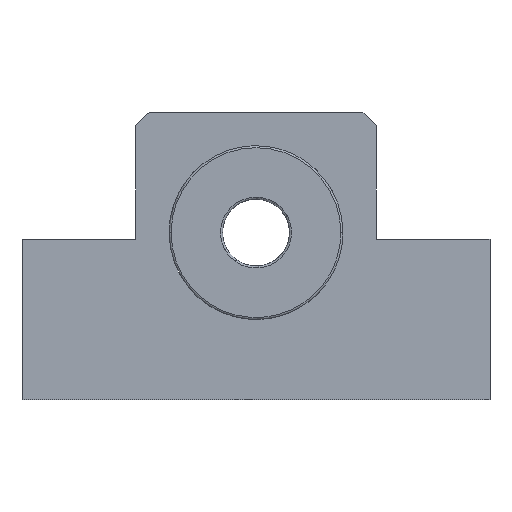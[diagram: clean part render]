
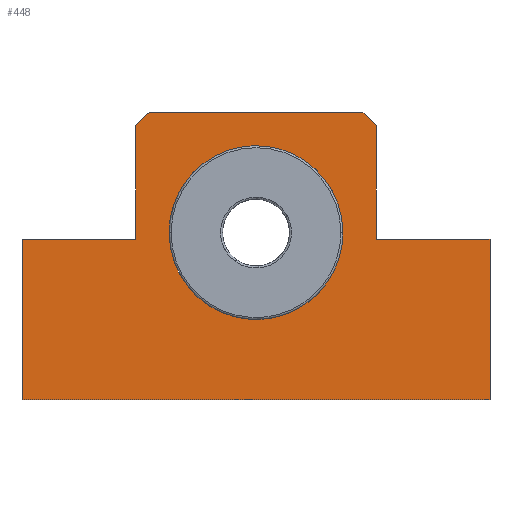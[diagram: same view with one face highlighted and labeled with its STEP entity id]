
A CAD part, left-side view. The second image highlights one B-rep face of the part: STEP entity #448.
In plain terms, the highlighted planar face has unit normal (-1, 0, 0).
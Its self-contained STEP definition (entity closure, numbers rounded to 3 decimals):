
#156=CARTESIAN_POINT('Vertex',(-10.,-35.,-25.)) ;
#161=CARTESIAN_POINT('Line Origine',(-10.,0.,-25.)) ;
#165=CARTESIAN_POINT('Vertex',(-10.,35.,-25.)) ;
#260=CARTESIAN_POINT('Vertex',(-10.,35.,-1.)) ;
#265=CARTESIAN_POINT('Line Origine',(-10.,26.5,-1.)) ;
#269=CARTESIAN_POINT('Vertex',(-10.,18.,-1.)) ;
#304=CARTESIAN_POINT('Vertex',(-10.,-35.,-1.)) ;
#309=CARTESIAN_POINT('Line Origine',(-10.,-35.,-13.)) ;
#326=CARTESIAN_POINT('Axis2P3D Location',(-10.,0.,0.)) ;
#331=CARTESIAN_POINT('Line Origine',(-10.,-17.,17.)) ;
#335=CARTESIAN_POINT('Vertex',(-10.,-16.,18.)) ;
#337=CARTESIAN_POINT('Vertex',(-10.,-18.,16.)) ;
#340=CARTESIAN_POINT('Line Origine',(-10.,0.,18.)) ;
#344=CARTESIAN_POINT('Vertex',(-10.,16.,18.)) ;
#347=CARTESIAN_POINT('Line Origine',(-10.,17.,17.)) ;
#351=CARTESIAN_POINT('Vertex',(-10.,18.,16.)) ;
#354=CARTESIAN_POINT('Line Origine',(-10.,18.,7.5)) ;
#359=CARTESIAN_POINT('Line Origine',(-10.,35.,-13.)) ;
#364=CARTESIAN_POINT('Line Origine',(-10.,-26.5,-1.)) ;
#368=CARTESIAN_POINT('Vertex',(-10.,-18.,-1.)) ;
#371=CARTESIAN_POINT('Line Origine',(-10.,-18.,7.5)) ;
#389=CARTESIAN_POINT('Control Point',(-10.,-11.409,6.233)) ;
#390=CARTESIAN_POINT('Control Point',(-10.,-10.816,7.318)) ;
#391=CARTESIAN_POINT('Control Point',(-10.,-10.094,8.332)) ;
#392=CARTESIAN_POINT('Control Point',(-10.,-9.254,9.256)) ;
#393=CARTESIAN_POINT('Control Point',(-10.,-7.372,10.886)) ;
#394=CARTESIAN_POINT('Control Point',(-10.,-5.159,12.029)) ;
#395=CARTESIAN_POINT('Control Point',(-10.,-3.99,12.466)) ;
#396=CARTESIAN_POINT('Control Point',(-10.,-1.57,13.053)) ;
#397=CARTESIAN_POINT('Control Point',(-10.,0.921,13.056)) ;
#398=CARTESIAN_POINT('Control Point',(-10.,2.16,12.909)) ;
#399=CARTESIAN_POINT('Control Point',(-10.,4.581,12.323)) ;
#400=CARTESIAN_POINT('Control Point',(-10.,6.796,11.186)) ;
#401=CARTESIAN_POINT('Control Point',(-10.,7.831,10.488)) ;
#402=CARTESIAN_POINT('Control Point',(-10.,9.714,8.859)) ;
#403=CARTESIAN_POINT('Control Point',(-10.,11.163,6.833)) ;
#404=CARTESIAN_POINT('Control Point',(-10.,11.764,5.739)) ;
#405=CARTESIAN_POINT('Control Point',(-10.,12.692,3.428)) ;
#406=CARTESIAN_POINT('Control Point',(-10.,13.053,0.964)) ;
#407=CARTESIAN_POINT('Control Point',(-10.,13.086,-0.284)) ;
#408=CARTESIAN_POINT('Control Point',(-10.,12.899,-2.275)) ;
#409=CARTESIAN_POINT('Control Point',(-10.,12.342,-4.186)) ;
#410=CARTESIAN_POINT('Control Point',(-10.,12.08,-4.891)) ;
#411=CARTESIAN_POINT('Control Point',(-10.,11.768,-5.575)) ;
#412=CARTESIAN_POINT('Control Point',(-10.,11.409,-6.233)) ;
#413=CARTESIAN_POINT('Vertex',(-10.,11.409,-6.233)) ;
#415=CARTESIAN_POINT('Vertex',(-10.,-11.409,6.233)) ;
#419=CARTESIAN_POINT('Control Point',(-10.,11.409,-6.233)) ;
#420=CARTESIAN_POINT('Control Point',(-10.,10.816,-7.318)) ;
#421=CARTESIAN_POINT('Control Point',(-10.,10.094,-8.332)) ;
#422=CARTESIAN_POINT('Control Point',(-10.,9.254,-9.256)) ;
#423=CARTESIAN_POINT('Control Point',(-10.,7.372,-10.886)) ;
#424=CARTESIAN_POINT('Control Point',(-10.,5.159,-12.029)) ;
#425=CARTESIAN_POINT('Control Point',(-10.,3.99,-12.466)) ;
#426=CARTESIAN_POINT('Control Point',(-10.,1.57,-13.053)) ;
#427=CARTESIAN_POINT('Control Point',(-10.,-0.921,-13.056)) ;
#428=CARTESIAN_POINT('Control Point',(-10.,-2.16,-12.909)) ;
#429=CARTESIAN_POINT('Control Point',(-10.,-4.581,-12.323)) ;
#430=CARTESIAN_POINT('Control Point',(-10.,-6.796,-11.186)) ;
#431=CARTESIAN_POINT('Control Point',(-10.,-7.831,-10.488)) ;
#432=CARTESIAN_POINT('Control Point',(-10.,-9.714,-8.859)) ;
#433=CARTESIAN_POINT('Control Point',(-10.,-11.163,-6.833)) ;
#434=CARTESIAN_POINT('Control Point',(-10.,-11.764,-5.739)) ;
#435=CARTESIAN_POINT('Control Point',(-10.,-12.692,-3.428)) ;
#436=CARTESIAN_POINT('Control Point',(-10.,-13.053,-0.964)) ;
#437=CARTESIAN_POINT('Control Point',(-10.,-13.086,0.284)) ;
#438=CARTESIAN_POINT('Control Point',(-10.,-12.899,2.275)) ;
#439=CARTESIAN_POINT('Control Point',(-10.,-12.342,4.186)) ;
#440=CARTESIAN_POINT('Control Point',(-10.,-12.08,4.891)) ;
#441=CARTESIAN_POINT('Control Point',(-10.,-11.768,5.575)) ;
#442=CARTESIAN_POINT('Control Point',(-10.,-11.409,6.233)) ;
#162=DIRECTION('Vector Direction',(0.,-1.,0.)) ;
#266=DIRECTION('Vector Direction',(0.,1.,0.)) ;
#310=DIRECTION('Vector Direction',(0.,0.,1.)) ;
#327=DIRECTION('Axis2P3D Direction',(1.,0.,0.)) ;
#328=DIRECTION('Axis2P3D XDirection',(0.,1.,0.)) ;
#332=DIRECTION('Vector Direction',(0.,-0.707,-0.707)) ;
#341=DIRECTION('Vector Direction',(0.,1.,0.)) ;
#348=DIRECTION('Vector Direction',(0.,0.707,-0.707)) ;
#355=DIRECTION('Vector Direction',(0.,0.,-1.)) ;
#360=DIRECTION('Vector Direction',(0.,0.,-1.)) ;
#365=DIRECTION('Vector Direction',(0.,1.,0.)) ;
#372=DIRECTION('Vector Direction',(0.,0.,1.)) ;
#329=AXIS2_PLACEMENT_3D('Plane Axis2P3D',#326,#327,#328) ;
#377=ORIENTED_EDGE('',*,*,#339,.F.) ;
#378=ORIENTED_EDGE('',*,*,#346,.F.) ;
#379=ORIENTED_EDGE('',*,*,#353,.F.) ;
#380=ORIENTED_EDGE('',*,*,#358,.F.) ;
#381=ORIENTED_EDGE('',*,*,#271,.F.) ;
#382=ORIENTED_EDGE('',*,*,#363,.F.) ;
#383=ORIENTED_EDGE('',*,*,#167,.F.) ;
#384=ORIENTED_EDGE('',*,*,#313,.F.) ;
#385=ORIENTED_EDGE('',*,*,#370,.F.) ;
#386=ORIENTED_EDGE('',*,*,#375,.F.) ;
#445=ORIENTED_EDGE('',*,*,#417,.T.) ;
#446=ORIENTED_EDGE('',*,*,#443,.T.) ;
#447=FACE_BOUND('',#444,.T.) ;
#163=VECTOR('Line Direction',#162,1.) ;
#267=VECTOR('Line Direction',#266,1.) ;
#311=VECTOR('Line Direction',#310,1.) ;
#333=VECTOR('Line Direction',#332,1.) ;
#342=VECTOR('Line Direction',#341,1.) ;
#349=VECTOR('Line Direction',#348,1.) ;
#356=VECTOR('Line Direction',#355,1.) ;
#361=VECTOR('Line Direction',#360,1.) ;
#366=VECTOR('Line Direction',#365,1.) ;
#373=VECTOR('Line Direction',#372,1.) ;
#448=ADVANCED_FACE('EF12(H)',(#387,#447),#330,.F.) ;
#388=B_SPLINE_CURVE_WITH_KNOTS('',5,(#389,#390,#391,#392,#393,#394,#395,#396,#397,#398,#399,#400,#401,#402,#403,#404,#405,#406,#407,#408,#409,#410,#411,#412),.UNSPECIFIED.,.F.,.U.,(6,3,3,3,3,3,3,6),(0.,8.743,17.486,26.229,34.972,43.715,52.457,57.757),.UNSPECIFIED.) ;
#418=B_SPLINE_CURVE_WITH_KNOTS('',5,(#419,#420,#421,#422,#423,#424,#425,#426,#427,#428,#429,#430,#431,#432,#433,#434,#435,#436,#437,#438,#439,#440,#441,#442),.UNSPECIFIED.,.F.,.U.,(6,3,3,3,3,3,3,6),(0.,8.743,17.486,26.229,34.972,43.715,52.457,57.757),.UNSPECIFIED.) ;
#167=EDGE_CURVE('',#157,#166,#164,.F.) ;
#271=EDGE_CURVE('',#261,#270,#268,.F.) ;
#313=EDGE_CURVE('',#305,#157,#312,.F.) ;
#339=EDGE_CURVE('',#336,#338,#334,.T.) ;
#346=EDGE_CURVE('',#345,#336,#343,.F.) ;
#353=EDGE_CURVE('',#352,#345,#350,.F.) ;
#358=EDGE_CURVE('',#270,#352,#357,.F.) ;
#363=EDGE_CURVE('',#166,#261,#362,.F.) ;
#370=EDGE_CURVE('',#369,#305,#367,.F.) ;
#375=EDGE_CURVE('',#338,#369,#374,.F.) ;
#417=EDGE_CURVE('',#414,#416,#388,.F.) ;
#443=EDGE_CURVE('',#416,#414,#418,.F.) ;
#376=EDGE_LOOP('',(#377,#378,#379,#380,#381,#382,#383,#384,#385,#386)) ;
#444=EDGE_LOOP('',(#445,#446)) ;
#387=FACE_OUTER_BOUND('',#376,.T.) ;
#164=LINE('Line',#161,#163) ;
#268=LINE('Line',#265,#267) ;
#312=LINE('Line',#309,#311) ;
#334=LINE('Line',#331,#333) ;
#343=LINE('Line',#340,#342) ;
#350=LINE('Line',#347,#349) ;
#357=LINE('Line',#354,#356) ;
#362=LINE('Line',#359,#361) ;
#367=LINE('Line',#364,#366) ;
#374=LINE('Line',#371,#373) ;
#330=PLANE('Plane',#329) ;
#157=VERTEX_POINT('',#156) ;
#166=VERTEX_POINT('',#165) ;
#261=VERTEX_POINT('',#260) ;
#270=VERTEX_POINT('',#269) ;
#305=VERTEX_POINT('',#304) ;
#336=VERTEX_POINT('',#335) ;
#338=VERTEX_POINT('',#337) ;
#345=VERTEX_POINT('',#344) ;
#352=VERTEX_POINT('',#351) ;
#369=VERTEX_POINT('',#368) ;
#414=VERTEX_POINT('',#413) ;
#416=VERTEX_POINT('',#415) ;
